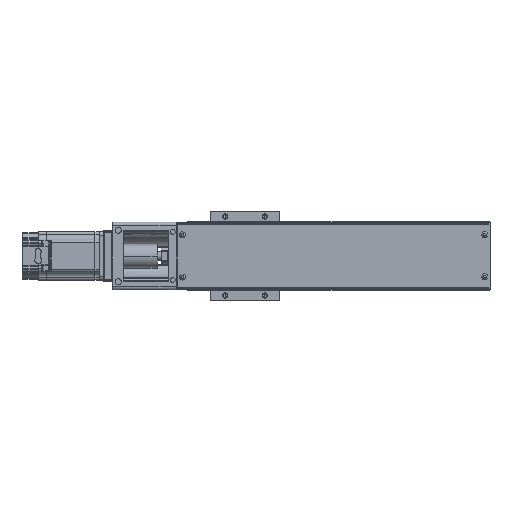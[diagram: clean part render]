
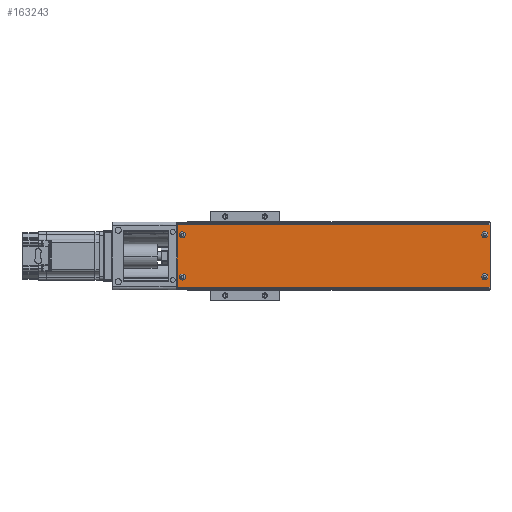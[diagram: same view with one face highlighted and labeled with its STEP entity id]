
A CAD part, top view. The second image highlights one B-rep face of the part: STEP entity #163243.
In plain terms, the highlighted planar face has unit normal (0, 0, 1).
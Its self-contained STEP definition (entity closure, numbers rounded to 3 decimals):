
#161466 = PLANE('',#161467);
#161467 = AXIS2_PLACEMENT_3D('',#161468,#161469,#161470);
#161468 = CARTESIAN_POINT('',(-168.38,-721.19,-12.415));
#161469 = DIRECTION('',(1.,0.,0.));
#161470 = DIRECTION('',(0.,0.,-1.));
#161523 = PLANE('',#161524);
#161524 = AXIS2_PLACEMENT_3D('',#161525,#161526,#161527);
#161525 = CARTESIAN_POINT('',(-532.38,-738.69,-16.33));
#161526 = DIRECTION('',(-1.,0.,0.));
#161527 = DIRECTION('',(0.,-1.,0.));
#162035 = CYLINDRICAL_SURFACE('',#162036,2.);
#162036 = AXIS2_PLACEMENT_3D('',#162037,#162038,#162039);
#162037 = CARTESIAN_POINT('',(-549.88,-781.69,-8.33));
#162038 = DIRECTION('',(-1.,-0.,-0.));
#162039 = DIRECTION('',(0.,-0.707,0.707));
#162155 = CYLINDRICAL_SURFACE('',#162156,2.);
#162156 = AXIS2_PLACEMENT_3D('',#162157,#162158,#162159);
#162157 = CARTESIAN_POINT('',(-549.88,-708.69,-8.33));
#162158 = DIRECTION('',(1.,0.,-0.));
#162159 = DIRECTION('',(0.,0.707,0.707));
#162883 = VERTEX_POINT('',#162884);
#162884 = CARTESIAN_POINT('',(-532.38,-781.69,-6.33));
#162910 = EDGE_CURVE('',#162911,#162883,#162913,.T.);
#162911 = VERTEX_POINT('',#162912);
#162912 = CARTESIAN_POINT('',(-532.38,-708.69,-6.33));
#162913 = SURFACE_CURVE('',#162914,(#162918,#162925),.PCURVE_S1.);
#162914 = LINE('',#162915,#162916);
#162915 = CARTESIAN_POINT('',(-532.38,-741.94,-6.33));
#162916 = VECTOR('',#162917,1.);
#162917 = DIRECTION('',(0.,-1.,0.));
#162918 = PCURVE('',#161523,#162919);
#162919 = DEFINITIONAL_REPRESENTATION('',(#162920),#162924);
#162920 = LINE('',#162921,#162922);
#162921 = CARTESIAN_POINT('',(3.25,10.));
#162922 = VECTOR('',#162923,1.);
#162923 = DIRECTION('',(1.,0.));
#162924 = ( GEOMETRIC_REPRESENTATION_CONTEXT(2) 
PARAMETRIC_REPRESENTATION_CONTEXT() REPRESENTATION_CONTEXT('2D SPACE',''
  ) );
#162925 = PCURVE('',#162926,#162931);
#162926 = PLANE('',#162927);
#162927 = AXIS2_PLACEMENT_3D('',#162928,#162929,#162930);
#162928 = CARTESIAN_POINT('',(-549.88,-745.19,-6.33));
#162929 = DIRECTION('',(0.,-0.,1.));
#162930 = DIRECTION('',(1.,0.,0.));
#162931 = DEFINITIONAL_REPRESENTATION('',(#162932),#162936);
#162932 = LINE('',#162933,#162934);
#162933 = CARTESIAN_POINT('',(17.5,3.25));
#162934 = VECTOR('',#162935,1.);
#162935 = DIRECTION('',(0.,-1.));
#162936 = ( GEOMETRIC_REPRESENTATION_CONTEXT(2) 
PARAMETRIC_REPRESENTATION_CONTEXT() REPRESENTATION_CONTEXT('2D SPACE',''
  ) );
#163195 = EDGE_CURVE('',#162911,#163196,#163198,.T.);
#163196 = VERTEX_POINT('',#163197);
#163197 = CARTESIAN_POINT('',(-168.38,-708.69,-6.33));
#163198 = SURFACE_CURVE('',#163199,(#163203,#163210),.PCURVE_S1.);
#163199 = LINE('',#163200,#163201);
#163200 = CARTESIAN_POINT('',(-549.88,-708.69,-6.33));
#163201 = VECTOR('',#163202,1.);
#163202 = DIRECTION('',(1.,0.,0.));
#163203 = PCURVE('',#162155,#163204);
#163204 = DEFINITIONAL_REPRESENTATION('',(#163205),#163209);
#163205 = LINE('',#163206,#163207);
#163206 = CARTESIAN_POINT('',(0.785,0.));
#163207 = VECTOR('',#163208,1.);
#163208 = DIRECTION('',(0.,1.));
#163209 = ( GEOMETRIC_REPRESENTATION_CONTEXT(2) 
PARAMETRIC_REPRESENTATION_CONTEXT() REPRESENTATION_CONTEXT('2D SPACE',''
  ) );
#163210 = PCURVE('',#162926,#163211);
#163211 = DEFINITIONAL_REPRESENTATION('',(#163212),#163216);
#163212 = LINE('',#163213,#163214);
#163213 = CARTESIAN_POINT('',(0.,36.5));
#163214 = VECTOR('',#163215,1.);
#163215 = DIRECTION('',(1.,0.));
#163216 = ( GEOMETRIC_REPRESENTATION_CONTEXT(2) 
PARAMETRIC_REPRESENTATION_CONTEXT() REPRESENTATION_CONTEXT('2D SPACE',''
  ) );
#163243 = ADVANCED_FACE('',(#163244),#162926,.T.);
#163244 = FACE_BOUND('',#163245,.T.);
#163245 = EDGE_LOOP('',(#163246,#163247,#163270,#163291));
#163246 = ORIENTED_EDGE('',*,*,#162910,.T.);
#163247 = ORIENTED_EDGE('',*,*,#163248,.F.);
#163248 = EDGE_CURVE('',#163249,#162883,#163251,.T.);
#163249 = VERTEX_POINT('',#163250);
#163250 = CARTESIAN_POINT('',(-168.38,-781.69,-6.33));
#163251 = SURFACE_CURVE('',#163252,(#163256,#163263),.PCURVE_S1.);
#163252 = LINE('',#163253,#163254);
#163253 = CARTESIAN_POINT('',(-549.88,-781.69,-6.33));
#163254 = VECTOR('',#163255,1.);
#163255 = DIRECTION('',(-1.,-0.,0.));
#163256 = PCURVE('',#162926,#163257);
#163257 = DEFINITIONAL_REPRESENTATION('',(#163258),#163262);
#163258 = LINE('',#163259,#163260);
#163259 = CARTESIAN_POINT('',(0.,-36.5));
#163260 = VECTOR('',#163261,1.);
#163261 = DIRECTION('',(-1.,0.));
#163262 = ( GEOMETRIC_REPRESENTATION_CONTEXT(2) 
PARAMETRIC_REPRESENTATION_CONTEXT() REPRESENTATION_CONTEXT('2D SPACE',''
  ) );
#163263 = PCURVE('',#162035,#163264);
#163264 = DEFINITIONAL_REPRESENTATION('',(#163265),#163269);
#163265 = LINE('',#163266,#163267);
#163266 = CARTESIAN_POINT('',(0.785,0.));
#163267 = VECTOR('',#163268,1.);
#163268 = DIRECTION('',(0.,1.));
#163269 = ( GEOMETRIC_REPRESENTATION_CONTEXT(2) 
PARAMETRIC_REPRESENTATION_CONTEXT() REPRESENTATION_CONTEXT('2D SPACE',''
  ) );
#163270 = ORIENTED_EDGE('',*,*,#163271,.T.);
#163271 = EDGE_CURVE('',#163249,#163196,#163272,.T.);
#163272 = SURFACE_CURVE('',#163273,(#163277,#163284),.PCURVE_S1.);
#163273 = LINE('',#163274,#163275);
#163274 = CARTESIAN_POINT('',(-168.38,-745.19,-6.33));
#163275 = VECTOR('',#163276,1.);
#163276 = DIRECTION('',(0.,1.,0.));
#163277 = PCURVE('',#162926,#163278);
#163278 = DEFINITIONAL_REPRESENTATION('',(#163279),#163283);
#163279 = LINE('',#163280,#163281);
#163280 = CARTESIAN_POINT('',(381.5,0.));
#163281 = VECTOR('',#163282,1.);
#163282 = DIRECTION('',(0.,1.));
#163283 = ( GEOMETRIC_REPRESENTATION_CONTEXT(2) 
PARAMETRIC_REPRESENTATION_CONTEXT() REPRESENTATION_CONTEXT('2D SPACE',''
  ) );
#163284 = PCURVE('',#161466,#163285);
#163285 = DEFINITIONAL_REPRESENTATION('',(#163286),#163290);
#163286 = LINE('',#163287,#163288);
#163287 = CARTESIAN_POINT('',(-6.085,-24.));
#163288 = VECTOR('',#163289,1.);
#163289 = DIRECTION('',(0.,1.));
#163290 = ( GEOMETRIC_REPRESENTATION_CONTEXT(2) 
PARAMETRIC_REPRESENTATION_CONTEXT() REPRESENTATION_CONTEXT('2D SPACE',''
  ) );
#163291 = ORIENTED_EDGE('',*,*,#163195,.F.);
